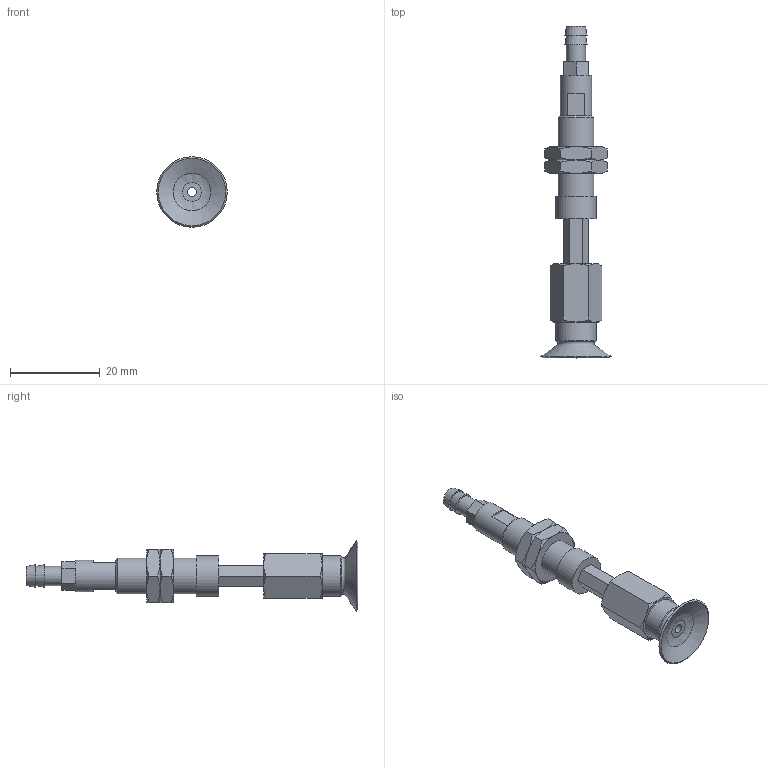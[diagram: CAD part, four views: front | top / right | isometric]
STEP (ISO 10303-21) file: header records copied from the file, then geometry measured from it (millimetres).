
FILE_DESCRIPTION(('STEP AP203'),'1');
FILE_NAME('-T.stp','2025-08-27T03:15:43',(' '),(' '),'Spatial InterOp 3D',' ',' ');
FILE_SCHEMA(('CONFIG_CONTROL_DESIGN'));
Length unit declared in the file: millimetre
Products named in the file (7): BNABPFTH-15A-10-※-T; ADAPTER; NAPATH-10A-10--M; Nut-15A-10-h; NAPFTH-15A-10-FBODY; BPFG-15A-※; T
Assembly tree (7 placements, depth 2):
  BNABPFTH-15A-10-※-T
    ADAPTER
    NAPATH-10A-10--M
    Nut-15A-10-h  x2
    NAPFTH-15A-10-FBODY
    BPFG-15A-※
    T
Bounding box: 15.7 x 74 x 15.7 mm (x, y, z)
Volume: 3788.7 mm3; surface area: 4738.2 mm2
Topology: 7 solids, 7 shells, 141 faces, 299 edges, 183 vertices
Faces by surface type: plane 65, cone 49, cylinder 17, torus 9, bspline 1
Full cylindrical faces by diameter (mm): 2 x3, 3 x1, 4 x2, 4.134 x1, 4.3 x1, 5 x1, 6 x2, 7 x1, 7.188 x2, 8 x1, 9 x2
Entity records: 3485 total; most frequent: CARTESIAN_POINT 795, DIRECTION 490, ORIENTED_EDGE 412, AXIS2_PLACEMENT_3D 207, EDGE_CURVE 206, EDGE_LOOP 178, VERTEX_POINT 148, FACE_OUTER_BOUND 144
